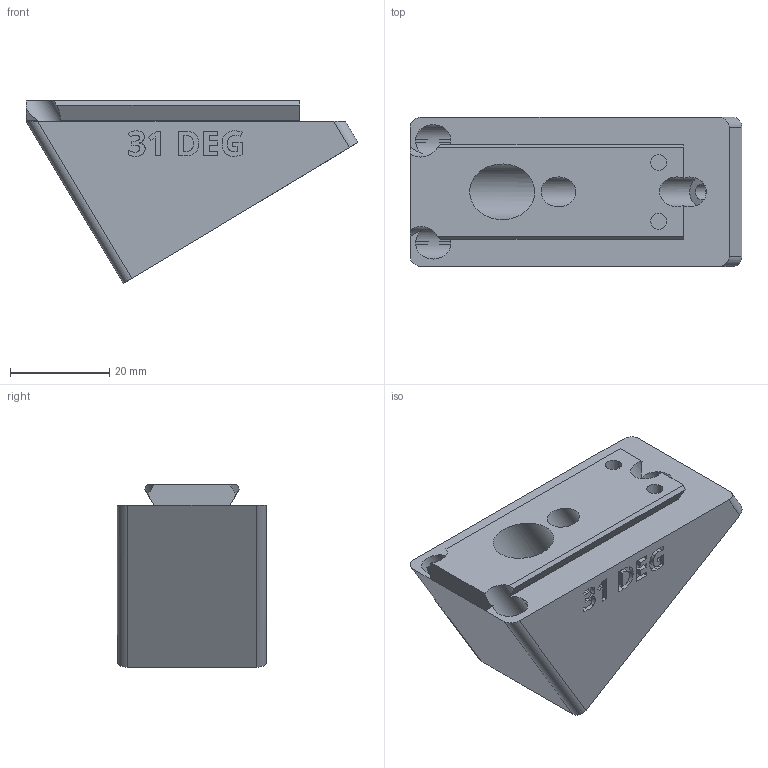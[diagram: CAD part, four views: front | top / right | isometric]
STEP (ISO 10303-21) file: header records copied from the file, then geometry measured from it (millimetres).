
FILE_DESCRIPTION(/* description */ ('STEP AP242 Edition 2','CAx-IF Rec.Pracs.---Representation and Presentation of Product Manufacturing Information (PMI)---4.0---2014-10-13','CAx-IF Rec.Pracs.---3D Tessellated Geometry---0.4---2014-09-14','2;1','CAx-IF Rec.Pracs.---User Defined Attributes---1.5---2016-08-15'),/* implementation_level */ '2;1');
FILE_NAME(/* name */ 'Camera Wedges - CAMERA MOUNTING WEDGE, POS, 31 DEG',/* time_stamp */ '2026-07-08T20:39:34Z',/* author */ (''),/* organization */ (''),/* preprocessor_version */ 'ST-DEVELOPER v20',/* originating_system */ 'ONSHAPE BY PTC INC, 1.217',/* authorisation */ ' ');
FILE_SCHEMA (('AP242_MANAGED_MODEL_BASED_3D_ENGINEERING_MIM_LF { 1 0 10303 442 3 1 4 }'));
Length unit declared in the file: metre
Products named in the file (1): CAMERA MOUNTING WEDGE, POS, 31 DEG
Bounding box: 66.74 x 30 x 36.71 mm (x, y, z)
Volume: 32511.5 mm3; surface area: 11190.1 mm2
Topology: 1 solids, 1 shells, 248 faces, 687 edges, 458 vertices
Faces by surface type: plane 140, bspline 66, cylinder 42
Full cylindrical faces by diameter (mm): 3.2 x4, 6 x2, 6.4 x1, 11.2 x1
Entity records: 8089 total; most frequent: CARTESIAN_POINT 2106, ORIENTED_EDGE 1352, DIRECTION 1009, EDGE_CURVE 676, VERTEX_POINT 455, LINE 445, VECTOR 445, EDGE_LOOP 283
